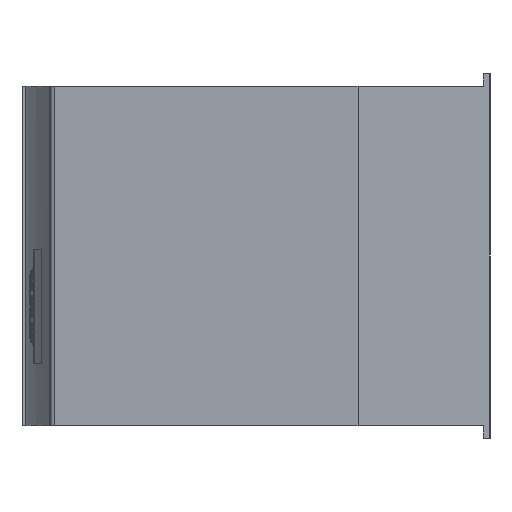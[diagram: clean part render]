
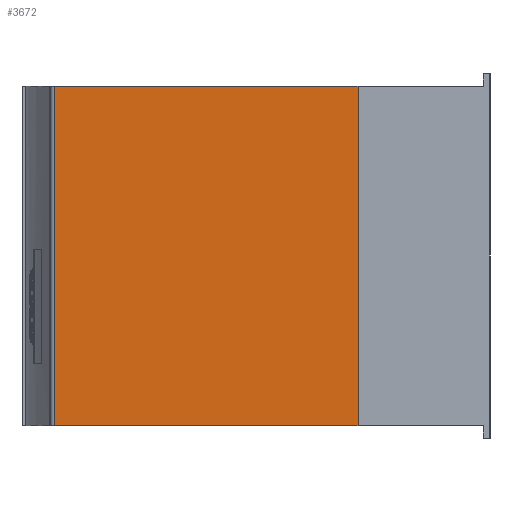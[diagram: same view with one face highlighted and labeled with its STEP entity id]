
A CAD part, left-side view. The second image highlights one B-rep face of the part: STEP entity #3672.
In plain terms, the highlighted planar face has unit normal (-0.998, 0.058, 0).
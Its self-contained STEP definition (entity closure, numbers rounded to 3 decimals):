
#26 = EDGE_CURVE ( 'NONE', #1756, #4081, #6354, .T. ) ;
#40 = VECTOR ( 'NONE', #6212, 1000. ) ;
#47 = VECTOR ( 'NONE', #4625, 1000. ) ;
#82 = VERTEX_POINT ( 'NONE', #4930 ) ;
#536 = VECTOR ( 'NONE', #1796, 1000. ) ;
#547 = CARTESIAN_POINT ( 'NONE',  ( -100.443, 147.221, 197. ) ) ;
#643 = VERTEX_POINT ( 'NONE', #1350 ) ;
#684 = VECTOR ( 'NONE', #5459, 1000. ) ;
#821 = EDGE_CURVE ( 'NONE', #4700, #82, #3114, .T. ) ;
#908 = VECTOR ( 'NONE', #4128, 1000. ) ;
#948 = CARTESIAN_POINT ( 'NONE',  ( -110.687, -28.906, 0. ) ) ;
#1048 = EDGE_LOOP ( 'NONE', ( #1135, #2959, #2659, #4946, #2244, #4697, #2857, #5831 ) ) ;
#1135 = ORIENTED_EDGE ( 'NONE', *, *, #2220, .T. ) ;
#1350 = CARTESIAN_POINT ( 'NONE',  ( -100.443, 147.221, 0. ) ) ;
#1351 = VECTOR ( 'NONE', #4566, 1000. ) ;
#1409 = LINE ( 'NONE', #4148, #47 ) ;
#1652 = EDGE_CURVE ( 'NONE', #3601, #4165, #3418, .T. ) ;
#1670 = CARTESIAN_POINT ( 'NONE',  ( -110.687, -28.906, 195.128 ) ) ;
#1756 = VERTEX_POINT ( 'NONE', #6033 ) ;
#1796 = DIRECTION ( 'NONE',  ( -0.058, -0.998, 0. ) ) ;
#1888 = LINE ( 'NONE', #2955, #40 ) ;
#2099 = PLANE ( 'NONE',  #2517 ) ;
#2176 = VERTEX_POINT ( 'NONE', #1670 ) ;
#2220 = EDGE_CURVE ( 'NONE', #643, #4081, #4114, .T. ) ;
#2244 = ORIENTED_EDGE ( 'NONE', *, *, #2835, .F. ) ;
#2517 = AXIS2_PLACEMENT_3D ( 'NONE', #547, #5675, #3165 ) ;
#2659 = ORIENTED_EDGE ( 'NONE', *, *, #5209, .F. ) ;
#2823 = CARTESIAN_POINT ( 'NONE',  ( -110.687, -28.906, 197. ) ) ;
#2835 = EDGE_CURVE ( 'NONE', #2176, #4700, #1409, .T. ) ;
#2857 = ORIENTED_EDGE ( 'NONE', *, *, #1652, .F. ) ;
#2867 = DIRECTION ( 'NONE',  ( 0., 0., -1. ) ) ;
#2955 = CARTESIAN_POINT ( 'NONE',  ( -100.443, 147.221, 197. ) ) ;
#2959 = ORIENTED_EDGE ( 'NONE', *, *, #26, .F. ) ;
#3047 = CARTESIAN_POINT ( 'NONE',  ( -110.687, -28.906, 191.372 ) ) ;
#3068 = EDGE_CURVE ( 'NONE', #3601, #643, #1888, .T. ) ;
#3114 = LINE ( 'NONE', #4716, #1351 ) ;
#3165 = DIRECTION ( 'NONE',  ( 0.058, 0.998, 0. ) ) ;
#3382 = EDGE_CURVE ( 'NONE', #4165, #2176, #3563, .T. ) ;
#3418 = LINE ( 'NONE', #6386, #684 ) ;
#3563 = LINE ( 'NONE', #6071, #908 ) ;
#3601 = VERTEX_POINT ( 'NONE', #5564 ) ;
#3672 = ADVANCED_FACE ( 'NONE', ( #4813 ), #2099, .F. ) ;
#4081 = VERTEX_POINT ( 'NONE', #948 ) ;
#4114 = LINE ( 'NONE', #4825, #536 ) ;
#4128 = DIRECTION ( 'NONE',  ( 0., 0., -1. ) ) ;
#4148 = CARTESIAN_POINT ( 'NONE',  ( -110.687, -28.906, 197. ) ) ;
#4165 = VERTEX_POINT ( 'NONE', #2823 ) ;
#4276 = DIRECTION ( 'NONE',  ( 0., 0., -1. ) ) ;
#4566 = DIRECTION ( 'NONE',  ( 0., 0., -1. ) ) ;
#4625 = DIRECTION ( 'NONE',  ( 0., 0., -1. ) ) ;
#4697 = ORIENTED_EDGE ( 'NONE', *, *, #3382, .F. ) ;
#4700 = VERTEX_POINT ( 'NONE', #3047 ) ;
#4716 = CARTESIAN_POINT ( 'NONE',  ( -110.687, -28.906, 197. ) ) ;
#4779 = CARTESIAN_POINT ( 'NONE',  ( -110.687, -28.906, 197. ) ) ;
#4813 = FACE_OUTER_BOUND ( 'NONE', #1048, .T. ) ;
#4825 = CARTESIAN_POINT ( 'NONE',  ( -100.443, 147.221, 0. ) ) ;
#4930 = CARTESIAN_POINT ( 'NONE',  ( -110.687, -28.906, 5.628 ) ) ;
#4946 = ORIENTED_EDGE ( 'NONE', *, *, #821, .F. ) ;
#5048 = VECTOR ( 'NONE', #2867, 1000. ) ;
#5127 = LINE ( 'NONE', #5942, #5048 ) ;
#5209 = EDGE_CURVE ( 'NONE', #82, #1756, #5127, .T. ) ;
#5459 = DIRECTION ( 'NONE',  ( -0.058, -0.998, 0. ) ) ;
#5564 = CARTESIAN_POINT ( 'NONE',  ( -100.443, 147.221, 197. ) ) ;
#5675 = DIRECTION ( 'NONE',  ( 0.998, -0.058, 0. ) ) ;
#5831 = ORIENTED_EDGE ( 'NONE', *, *, #3068, .T. ) ;
#5942 = CARTESIAN_POINT ( 'NONE',  ( -110.687, -28.906, 197. ) ) ;
#6033 = CARTESIAN_POINT ( 'NONE',  ( -110.687, -28.906, 1.872 ) ) ;
#6071 = CARTESIAN_POINT ( 'NONE',  ( -110.687, -28.906, 197. ) ) ;
#6212 = DIRECTION ( 'NONE',  ( 0., 0., -1. ) ) ;
#6279 = VECTOR ( 'NONE', #4276, 1000. ) ;
#6354 = LINE ( 'NONE', #4779, #6279 ) ;
#6386 = CARTESIAN_POINT ( 'NONE',  ( -100.443, 147.221, 197. ) ) ;
